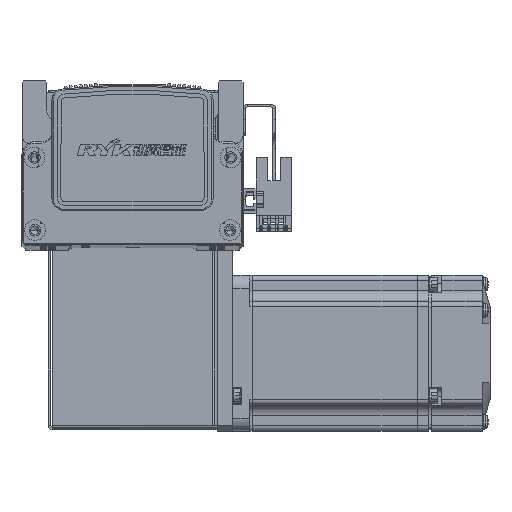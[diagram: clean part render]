
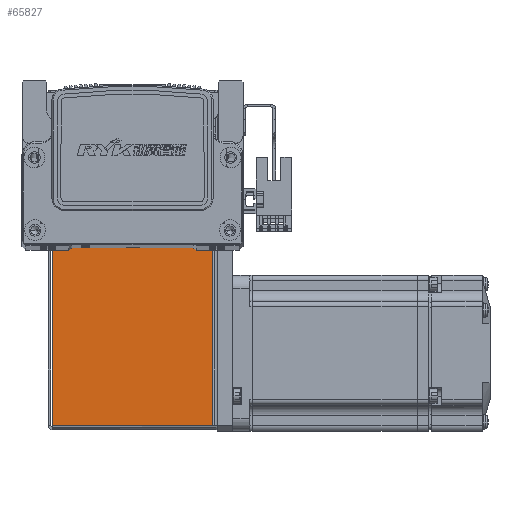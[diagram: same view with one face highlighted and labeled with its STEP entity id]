
A CAD part, top view. The second image highlights one B-rep face of the part: STEP entity #65827.
In plain terms, the highlighted planar face has unit normal (0, 0, 1).
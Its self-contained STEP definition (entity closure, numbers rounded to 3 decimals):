
#3659 = EDGE_CURVE ( 'NONE', #16991, #17072, #39634, .T. ) ;
#3700 = EDGE_CURVE ( 'NONE', #16957, #16991, #39602, .T. ) ;
#3786 = EDGE_CURVE ( 'NONE', #16957, #17106, #39932, .T. ) ;
#3862 = EDGE_CURVE ( 'NONE', #17106, #17072, #39971, .T. ) ;
#16957 = VERTEX_POINT ( 'NONE', #62834 ) ;
#16991 = VERTEX_POINT ( 'NONE', #59331 ) ;
#17072 = VERTEX_POINT ( 'NONE', #58490 ) ;
#17106 = VERTEX_POINT ( 'NONE', #58514 ) ;
#21531 = PLANE ( 'NONE',  #26722 ) ;
#21535 = DIRECTION ( 'NONE',  ( 0., 0., -1. ) ) ;
#21536 = DIRECTION ( 'NONE',  ( -1., 0., 0. ) ) ;
#21556 = CARTESIAN_POINT ( 'NONE',  ( 0., 0., 35. ) ) ;
#23135 = EDGE_LOOP ( 'NONE', ( #53831, #53799, #53847, #53838 ) ) ;
#26722 = AXIS2_PLACEMENT_3D ( 'NONE', #21556, #21535, #21536 ) ;
#33391 = FACE_OUTER_BOUND ( 'NONE', #23135, .T. ) ;
#35158 = DIRECTION ( 'NONE',  ( -1., 0., 0. ) ) ;
#35178 = CARTESIAN_POINT ( 'NONE',  ( 0., 72.5, 35. ) ) ;
#35279 = CARTESIAN_POINT ( 'NONE',  ( 30.763, 0.737, 35. ) ) ;
#35321 = DIRECTION ( 'NONE',  ( 0., 1., 0. ) ) ;
#35610 = CARTESIAN_POINT ( 'NONE',  ( -32.5, 0.737, 35. ) ) ;
#35622 = DIRECTION ( 'NONE',  ( -1., 0., 0. ) ) ;
#35630 = CARTESIAN_POINT ( 'NONE',  ( -30.793, 0., 35. ) ) ;
#35736 = DIRECTION ( 'NONE',  ( 0., 1., 0. ) ) ;
#39602 = LINE ( 'NONE', #35279, #39705 ) ;
#39619 = VECTOR ( 'NONE', #35158, 1000. ) ;
#39634 = LINE ( 'NONE', #35178, #39619 ) ;
#39705 = VECTOR ( 'NONE', #35321, 1000. ) ;
#39915 = VECTOR ( 'NONE', #35622, 1000. ) ;
#39932 = LINE ( 'NONE', #35610, #39915 ) ;
#39971 = LINE ( 'NONE', #35630, #40048 ) ;
#40048 = VECTOR ( 'NONE', #35736, 1000. ) ;
#53799 = ORIENTED_EDGE ( 'NONE', *, *, #3659, .T. ) ;
#53831 = ORIENTED_EDGE ( 'NONE', *, *, #3700, .T. ) ;
#53838 = ORIENTED_EDGE ( 'NONE', *, *, #3786, .F. ) ;
#53847 = ORIENTED_EDGE ( 'NONE', *, *, #3862, .F. ) ;
#58490 = CARTESIAN_POINT ( 'NONE',  ( -30.793, 72.5, 35. ) ) ;
#58514 = CARTESIAN_POINT ( 'NONE',  ( -30.793, 0.737, 35. ) ) ;
#59331 = CARTESIAN_POINT ( 'NONE',  ( 30.763, 72.5, 35. ) ) ;
#62834 = CARTESIAN_POINT ( 'NONE',  ( 30.763, 0.737, 35. ) ) ;
#65827 = ADVANCED_FACE ( 'NONE', ( #33391 ), #21531, .F. ) ;
